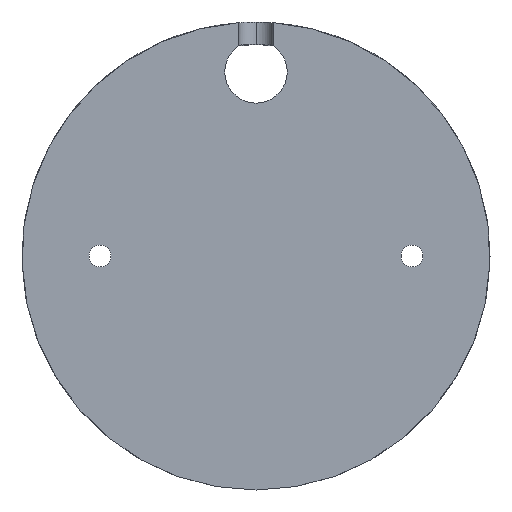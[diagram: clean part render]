
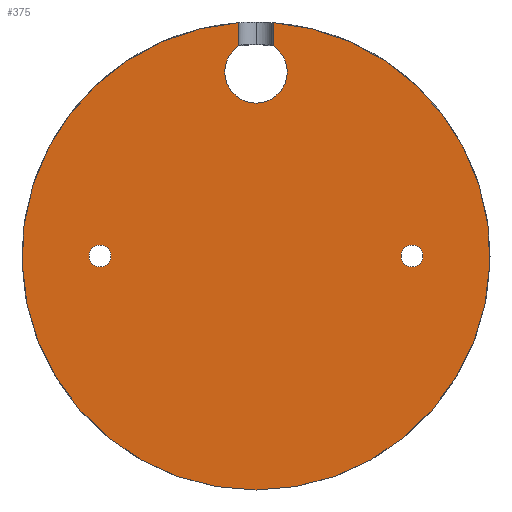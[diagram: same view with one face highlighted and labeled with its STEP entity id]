
A CAD part, front view. The second image highlights one B-rep face of the part: STEP entity #375.
In plain terms, the highlighted planar face has unit normal (0, -1, 0).
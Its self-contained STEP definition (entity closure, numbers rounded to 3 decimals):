
#19 = CARTESIAN_POINT ( 'NONE',  ( 25., 0., -1.75 ) ) ;
#25 = VERTEX_POINT ( 'NONE', #777 ) ;
#29 = CIRCLE ( 'NONE', #56, 1.75 ) ;
#32 = VECTOR ( 'NONE', #419, 1000. ) ;
#33 = DIRECTION ( 'NONE',  ( 0., -1., 0. ) ) ;
#56 = AXIS2_PLACEMENT_3D ( 'NONE', #243, #33, #640 ) ;
#81 = EDGE_LOOP ( 'NONE', ( #821, #656 ) ) ;
#95 = VERTEX_POINT ( 'NONE', #669 ) ;
#103 = DIRECTION ( 'NONE',  ( 0., 0., -1. ) ) ;
#105 = ORIENTED_EDGE ( 'NONE', *, *, #136, .T. ) ;
#136 = EDGE_CURVE ( 'NONE', #318, #25, #166, .T. ) ;
#151 = EDGE_CURVE ( 'NONE', #800, #601, #438, .T. ) ;
#154 = EDGE_LOOP ( 'NONE', ( #105, #478, #359, #377, #385, #605 ) ) ;
#160 = CARTESIAN_POINT ( 'NONE',  ( 0., 0., 0. ) ) ;
#166 = CIRCLE ( 'NONE', #239, 37.5 ) ;
#170 = DIRECTION ( 'NONE',  ( 0., 1., 0. ) ) ;
#176 = DIRECTION ( 'NONE',  ( 0., -1., 0. ) ) ;
#185 = DIRECTION ( 'NONE',  ( 0., 0., 1. ) ) ;
#207 = EDGE_CURVE ( 'NONE', #593, #244, #580, .T. ) ;
#213 = AXIS2_PLACEMENT_3D ( 'NONE', #715, #176, #443 ) ;
#230 = FACE_OUTER_BOUND ( 'NONE', #154, .T. ) ;
#239 = AXIS2_PLACEMENT_3D ( 'NONE', #460, #799, #267 ) ;
#243 = CARTESIAN_POINT ( 'NONE',  ( 25., 0., 0. ) ) ;
#244 = VERTEX_POINT ( 'NONE', #622 ) ;
#247 = CARTESIAN_POINT ( 'NONE',  ( 2.75, 0., 37.399 ) ) ;
#256 = CARTESIAN_POINT ( 'NONE',  ( 2.75, 0., 33.676 ) ) ;
#267 = DIRECTION ( 'NONE',  ( 0., 0., -1. ) ) ;
#274 = AXIS2_PLACEMENT_3D ( 'NONE', #576, #706, #103 ) ;
#277 = DIRECTION ( 'NONE',  ( 0., 0., -1. ) ) ;
#290 = DIRECTION ( 'NONE',  ( 0., -1., 0. ) ) ;
#295 = DIRECTION ( 'NONE',  ( 0., -1., 0. ) ) ;
#298 = AXIS2_PLACEMENT_3D ( 'NONE', #331, #546, #604 ) ;
#313 = AXIS2_PLACEMENT_3D ( 'NONE', #364, #295, #514 ) ;
#314 = FACE_BOUND ( 'NONE', #417, .T. ) ;
#318 = VERTEX_POINT ( 'NONE', #436 ) ;
#319 = EDGE_CURVE ( 'NONE', #601, #800, #29, .T. ) ;
#331 = CARTESIAN_POINT ( 'NONE',  ( 25., 0., 0. ) ) ;
#359 = ORIENTED_EDGE ( 'NONE', *, *, #423, .F. ) ;
#361 = CARTESIAN_POINT ( 'NONE',  ( 0., 0., 29.5 ) ) ;
#362 = VERTEX_POINT ( 'NONE', #247 ) ;
#364 = CARTESIAN_POINT ( 'NONE',  ( 0., 0., 29.5 ) ) ;
#367 = AXIS2_PLACEMENT_3D ( 'NONE', #361, #290, #814 ) ;
#375 = ADVANCED_FACE ( 'NONE', ( #775, #314, #230 ), #433, .F. ) ;
#377 = ORIENTED_EDGE ( 'NONE', *, *, #716, .F. ) ;
#382 = AXIS2_PLACEMENT_3D ( 'NONE', #160, #170, #515 ) ;
#385 = ORIENTED_EDGE ( 'NONE', *, *, #207, .F. ) ;
#399 = VERTEX_POINT ( 'NONE', #256 ) ;
#417 = EDGE_LOOP ( 'NONE', ( #457, #526 ) ) ;
#419 = DIRECTION ( 'NONE',  ( 0., 0., -1. ) ) ;
#423 = EDGE_CURVE ( 'NONE', #399, #362, #540, .T. ) ;
#427 = CIRCLE ( 'NONE', #274, 1.75 ) ;
#433 = PLANE ( 'NONE',  #382 ) ;
#436 = CARTESIAN_POINT ( 'NONE',  ( -2.75, 0., 37.399 ) ) ;
#438 = CIRCLE ( 'NONE', #298, 1.75 ) ;
#443 = DIRECTION ( 'NONE',  ( 0., 0., -1. ) ) ;
#457 = ORIENTED_EDGE ( 'NONE', *, *, #652, .F. ) ;
#460 = CARTESIAN_POINT ( 'NONE',  ( 0., 0., 0. ) ) ;
#478 = ORIENTED_EDGE ( 'NONE', *, *, #769, .T. ) ;
#499 = VERTEX_POINT ( 'NONE', #668 ) ;
#514 = DIRECTION ( 'NONE',  ( 0., 0., 1. ) ) ;
#515 = DIRECTION ( 'NONE',  ( 0., 0., 1. ) ) ;
#526 = ORIENTED_EDGE ( 'NONE', *, *, #754, .F. ) ;
#540 = LINE ( 'NONE', #662, #792 ) ;
#544 = EDGE_CURVE ( 'NONE', #318, #593, #682, .T. ) ;
#546 = DIRECTION ( 'NONE',  ( 0., -1., 0. ) ) ;
#551 = CARTESIAN_POINT ( 'NONE',  ( -25., 0., 0. ) ) ;
#576 = CARTESIAN_POINT ( 'NONE',  ( -25., 0., 0. ) ) ;
#580 = CIRCLE ( 'NONE', #367, 5. ) ;
#593 = VERTEX_POINT ( 'NONE', #826 ) ;
#601 = VERTEX_POINT ( 'NONE', #19 ) ;
#604 = DIRECTION ( 'NONE',  ( 0., 0., -1. ) ) ;
#605 = ORIENTED_EDGE ( 'NONE', *, *, #544, .F. ) ;
#611 = CIRCLE ( 'NONE', #213, 37.5 ) ;
#617 = DIRECTION ( 'NONE',  ( 0., -1., 0. ) ) ;
#622 = CARTESIAN_POINT ( 'NONE',  ( 0., 0., 24.5 ) ) ;
#640 = DIRECTION ( 'NONE',  ( 0., 0., -1. ) ) ;
#643 = CARTESIAN_POINT ( 'NONE',  ( 25., 0., 1.75 ) ) ;
#652 = EDGE_CURVE ( 'NONE', #95, #499, #734, .T. ) ;
#656 = ORIENTED_EDGE ( 'NONE', *, *, #151, .F. ) ;
#662 = CARTESIAN_POINT ( 'NONE',  ( 2.75, 0., 38.5 ) ) ;
#668 = CARTESIAN_POINT ( 'NONE',  ( -25., 0., 1.75 ) ) ;
#669 = CARTESIAN_POINT ( 'NONE',  ( -25., 0., -1.75 ) ) ;
#682 = LINE ( 'NONE', #819, #32 ) ;
#696 = CIRCLE ( 'NONE', #313, 5. ) ;
#706 = DIRECTION ( 'NONE',  ( 0., -1., 0. ) ) ;
#715 = CARTESIAN_POINT ( 'NONE',  ( 0., 0., 0. ) ) ;
#716 = EDGE_CURVE ( 'NONE', #244, #399, #696, .T. ) ;
#734 = CIRCLE ( 'NONE', #818, 1.75 ) ;
#754 = EDGE_CURVE ( 'NONE', #499, #95, #427, .T. ) ;
#769 = EDGE_CURVE ( 'NONE', #25, #362, #611, .T. ) ;
#775 = FACE_BOUND ( 'NONE', #81, .T. ) ;
#777 = CARTESIAN_POINT ( 'NONE',  ( 0., 0., -37.5 ) ) ;
#792 = VECTOR ( 'NONE', #185, 1000. ) ;
#799 = DIRECTION ( 'NONE',  ( 0., -1., 0. ) ) ;
#800 = VERTEX_POINT ( 'NONE', #643 ) ;
#814 = DIRECTION ( 'NONE',  ( 0., 0., 1. ) ) ;
#818 = AXIS2_PLACEMENT_3D ( 'NONE', #551, #617, #277 ) ;
#819 = CARTESIAN_POINT ( 'NONE',  ( -2.75, 0., 38.5 ) ) ;
#821 = ORIENTED_EDGE ( 'NONE', *, *, #319, .F. ) ;
#826 = CARTESIAN_POINT ( 'NONE',  ( -2.75, 0., 33.676 ) ) ;
